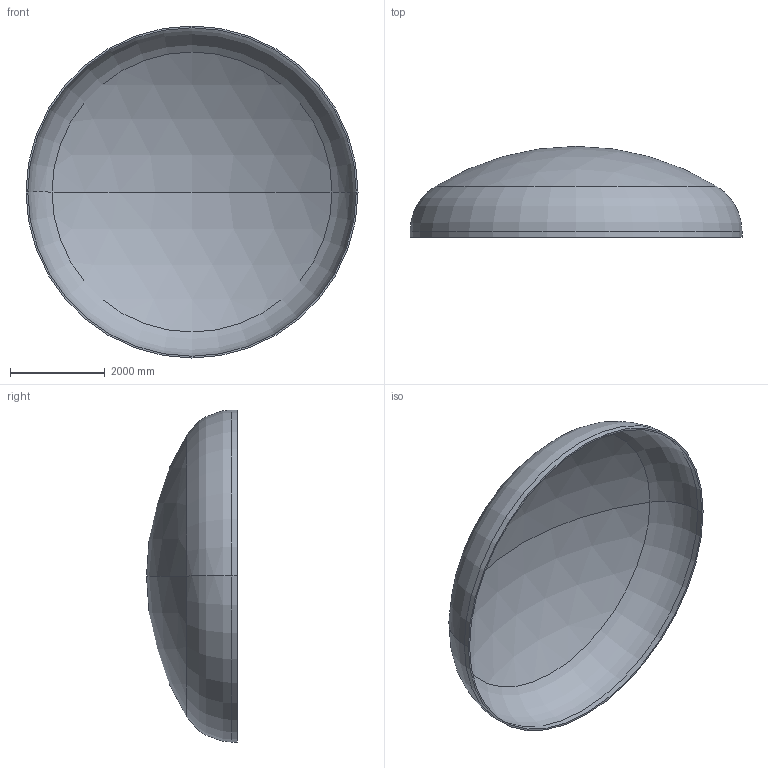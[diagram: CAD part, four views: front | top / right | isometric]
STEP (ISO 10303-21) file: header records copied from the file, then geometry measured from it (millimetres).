
FILE_DESCRIPTION (( 'STEP AP203' ), '1' );
FILE_NAME ('DIN 28013 Korbbogenform_-_Boden DIN 28013 - 7000 x 120 - I - s=37.step', '2016-07-04T10:47:00', ( '' ), ( '' ), 'SwSTEP 2.0', 'SolidWorks 2013', '' );
FILE_SCHEMA (( 'CONFIG_CONTROL_DESIGN' ));
Length unit declared in the file: millimetre
Products named in the file (1): DIN 28013 Korbbogenform_-_Boden DIN 28013 - 7000 x 120 - I - s=37
Bounding box: 7000 x 1916.2 x 7000 mm (x, y, z)
Volume: 2056279341.7 mm3; surface area: 111962429.9 mm2
Topology: 1 solids, 1 shells, 13 faces, 24 edges, 14 vertices
Faces by surface type: torus 4, cylinder 4, sphere 4, plane 1
Entity records: 407 total; most frequent: DIRECTION 72, CARTESIAN_POINT 52, ORIENTED_EDGE 48, AXIS2_PLACEMENT_3D 34, EDGE_CURVE 24, CIRCLE 20, VERTEX_POINT 14, EDGE_LOOP 14
